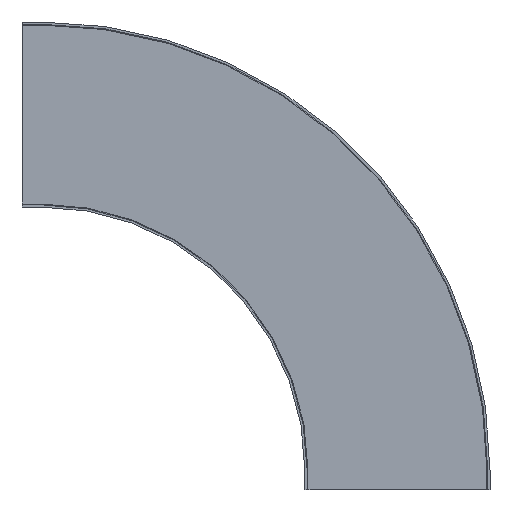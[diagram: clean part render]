
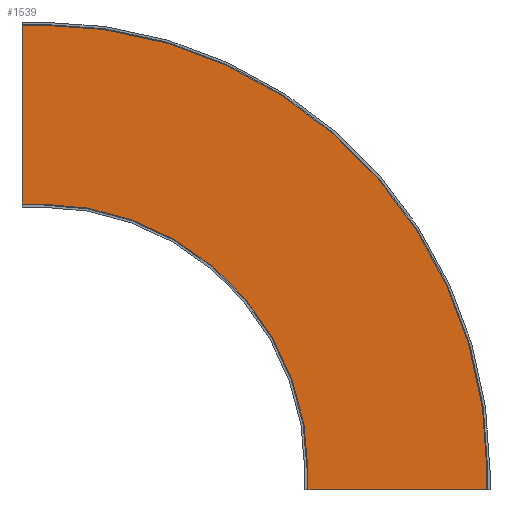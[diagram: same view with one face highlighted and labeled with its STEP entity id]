
A CAD part, front view. The second image highlights one B-rep face of the part: STEP entity #1539.
In plain terms, the highlighted planar face has unit normal (0, -1, 0).
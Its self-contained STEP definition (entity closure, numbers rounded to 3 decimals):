
#2 = CARTESIAN_POINT ( 'NONE',  ( 0., -68.25, 718.7 ) ) ;
#9 = VECTOR ( 'NONE', #161, 1000. ) ;
#84 = EDGE_CURVE ( 'NONE', #884, #176, #1196, .T. ) ;
#101 = LINE ( 'NONE', #2442, #9 ) ;
#141 = DIRECTION ( 'NONE',  ( 1., 0., 0. ) ) ;
#161 = DIRECTION ( 'NONE',  ( 0., 0., 1. ) ) ;
#176 = VERTEX_POINT ( 'NONE', #1599 ) ;
#237 = CARTESIAN_POINT ( 'NONE',  ( -52.5, -68.25, 718.7 ) ) ;
#258 = FACE_OUTER_BOUND ( 'NONE', #1110, .T. ) ;
#287 = VERTEX_POINT ( 'NONE', #2171 ) ;
#426 = DIRECTION ( 'NONE',  ( 1., 0., 0. ) ) ;
#511 = CARTESIAN_POINT ( 'NONE',  ( -52.5, -68.25, 1201.3 ) ) ;
#585 = CARTESIAN_POINT ( 'NONE',  ( 1201.3, -68.25, -52.5 ) ) ;
#701 = DIRECTION ( 'NONE',  ( 0., 0., 1. ) ) ;
#732 = EDGE_CURVE ( 'NONE', #1615, #884, #2237, .T. ) ;
#762 = EDGE_CURVE ( 'NONE', #1360, #1580, #2423, .T. ) ;
#770 = LINE ( 'NONE', #585, #2478 ) ;
#786 = EDGE_CURVE ( 'NONE', #894, #1615, #2210, .T. ) ;
#814 = CARTESIAN_POINT ( 'NONE',  ( 0., -68.25, 0. ) ) ;
#827 = CARTESIAN_POINT ( 'NONE',  ( 718.7, -68.25, 0. ) ) ;
#879 = DIRECTION ( 'NONE',  ( 0., 1., 0. ) ) ;
#884 = VERTEX_POINT ( 'NONE', #1918 ) ;
#894 = VERTEX_POINT ( 'NONE', #2066 ) ;
#988 = ORIENTED_EDGE ( 'NONE', *, *, #1535, .T. ) ;
#997 = EDGE_CURVE ( 'NONE', #287, #2305, #1578, .T. ) ;
#999 = PLANE ( 'NONE',  #1268 ) ;
#1019 = DIRECTION ( 'NONE',  ( 0., 1., 0. ) ) ;
#1023 = ORIENTED_EDGE ( 'NONE', *, *, #1351, .F. ) ;
#1110 = EDGE_LOOP ( 'NONE', ( #1607, #1023, #1952, #2236, #2107, #1495, #1926, #988 ) ) ;
#1180 = DIRECTION ( 'NONE',  ( 0., 0., 1. ) ) ;
#1194 = CARTESIAN_POINT ( 'NONE',  ( 0., -68.25, 718.7 ) ) ;
#1196 = CIRCLE ( 'NONE', #2349, 1201.3 ) ;
#1268 = AXIS2_PLACEMENT_3D ( 'NONE', #1194, #1019, #2325 ) ;
#1314 = CARTESIAN_POINT ( 'NONE',  ( -52.5, -68.25, 1201.3 ) ) ;
#1351 = EDGE_CURVE ( 'NONE', #2305, #1580, #101, .T. ) ;
#1360 = VERTEX_POINT ( 'NONE', #2 ) ;
#1395 = DIRECTION ( 'NONE',  ( -1., 0., 0. ) ) ;
#1467 = CARTESIAN_POINT ( 'NONE',  ( -52.5, -68.25, 0. ) ) ;
#1495 = ORIENTED_EDGE ( 'NONE', *, *, #732, .F. ) ;
#1497 = DIRECTION ( 'NONE',  ( -1., 0., 0. ) ) ;
#1535 = EDGE_CURVE ( 'NONE', #894, #1360, #1832, .T. ) ;
#1539 = ADVANCED_FACE ( 'NONE', ( #258 ), #999, .F. ) ;
#1578 = LINE ( 'NONE', #1942, #2293 ) ;
#1580 = VERTEX_POINT ( 'NONE', #827 ) ;
#1599 = CARTESIAN_POINT ( 'NONE',  ( 1201.3, -68.25, 0. ) ) ;
#1606 = DIRECTION ( 'NONE',  ( -1., 0., 0. ) ) ;
#1607 = ORIENTED_EDGE ( 'NONE', *, *, #762, .T. ) ;
#1615 = VERTEX_POINT ( 'NONE', #511 ) ;
#1832 = LINE ( 'NONE', #237, #2397 ) ;
#1905 = AXIS2_PLACEMENT_3D ( 'NONE', #2245, #879, #1497 ) ;
#1918 = CARTESIAN_POINT ( 'NONE',  ( 0., -68.25, 1201.3 ) ) ;
#1926 = ORIENTED_EDGE ( 'NONE', *, *, #786, .F. ) ;
#1942 = CARTESIAN_POINT ( 'NONE',  ( 0., -68.25, -52.5 ) ) ;
#1952 = ORIENTED_EDGE ( 'NONE', *, *, #997, .F. ) ;
#1958 = CARTESIAN_POINT ( 'NONE',  ( 718.7, -68.25, -52.5 ) ) ;
#2066 = CARTESIAN_POINT ( 'NONE',  ( -52.5, -68.25, 718.7 ) ) ;
#2106 = VECTOR ( 'NONE', #141, 1000. ) ;
#2107 = ORIENTED_EDGE ( 'NONE', *, *, #84, .F. ) ;
#2153 = DIRECTION ( 'NONE',  ( 0., 1., 0. ) ) ;
#2171 = CARTESIAN_POINT ( 'NONE',  ( 1201.3, -68.25, -52.5 ) ) ;
#2210 = LINE ( 'NONE', #1467, #2295 ) ;
#2236 = ORIENTED_EDGE ( 'NONE', *, *, #2464, .T. ) ;
#2237 = LINE ( 'NONE', #1314, #2106 ) ;
#2245 = CARTESIAN_POINT ( 'NONE',  ( 0., -68.25, 0. ) ) ;
#2293 = VECTOR ( 'NONE', #1606, 1000. ) ;
#2295 = VECTOR ( 'NONE', #701, 1000. ) ;
#2305 = VERTEX_POINT ( 'NONE', #1958 ) ;
#2325 = DIRECTION ( 'NONE',  ( -1., 0., 0. ) ) ;
#2349 = AXIS2_PLACEMENT_3D ( 'NONE', #814, #2153, #1395 ) ;
#2397 = VECTOR ( 'NONE', #426, 1000. ) ;
#2423 = CIRCLE ( 'NONE', #1905, 718.7 ) ;
#2442 = CARTESIAN_POINT ( 'NONE',  ( 718.7, -68.25, -52.5 ) ) ;
#2464 = EDGE_CURVE ( 'NONE', #287, #176, #770, .T. ) ;
#2478 = VECTOR ( 'NONE', #1180, 1000. ) ;
